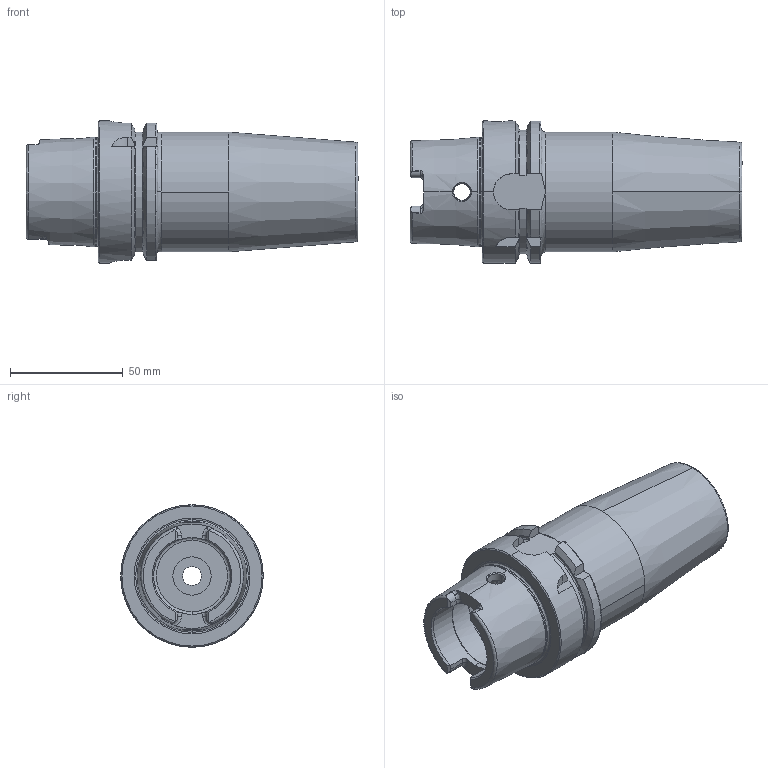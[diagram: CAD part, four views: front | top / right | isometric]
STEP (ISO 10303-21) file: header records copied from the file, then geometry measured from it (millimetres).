
FILE_DESCRIPTION (( 'STEP AP214' ), '1' );
FILE_NAME ('04-0492.STEP', '2021-08-03T19:18:34', ( '' ), ( '' ), 'SwSTEP 2.0', 'SolidWorks 2020', '' );
FILE_SCHEMA (( 'AUTOMOTIVE_DESIGN' ));
Length unit declared in the file: inch
Products named in the file (1): 04-0492
Bounding box: 147 x 63 x 63 mm (x, y, z)
Volume: 222553.4 mm3; surface area: 41456 mm2
Topology: 1 solids, 1 shells, 157 faces, 419 edges, 265 vertices
Faces by surface type: cylinder 49, bspline 43, plane 43, cone 22
Entity records: 8560 total; most frequent: CARTESIAN_POINT 4934, ORIENTED_EDGE 838, DIRECTION 658, EDGE_CURVE 419, AXIS2_PLACEMENT_3D 266, VERTEX_POINT 265, EDGE_LOOP 164, FACE_OUTER_BOUND 157
